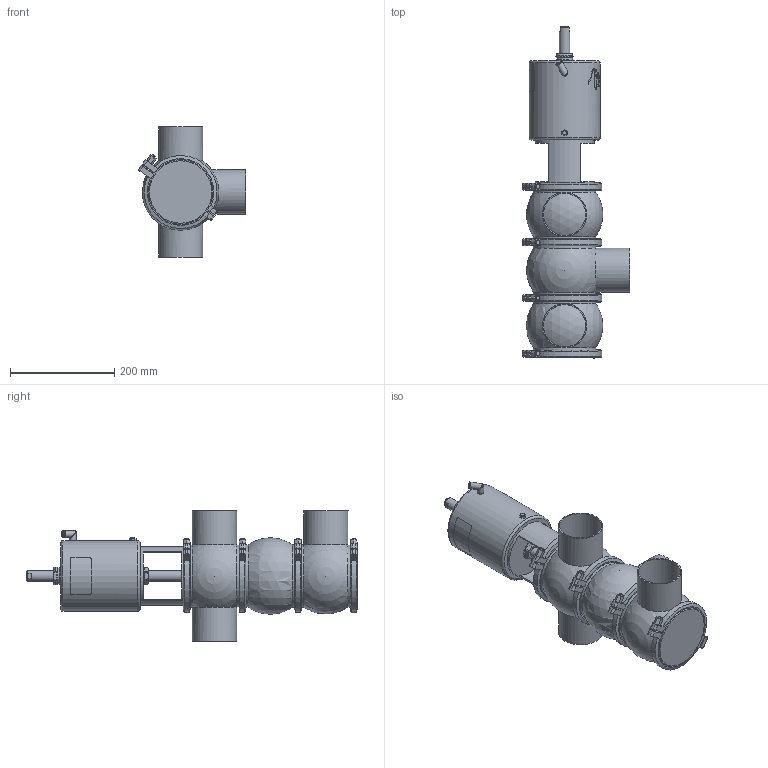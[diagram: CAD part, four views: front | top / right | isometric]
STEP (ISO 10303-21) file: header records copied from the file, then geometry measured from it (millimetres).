
FILE_DESCRIPTION (( 'STEP AP214' ), '1' );
FILE_NAME ('INNOVA L P W DIN 080 T3 AS NC_10.241.16.0016.STEP', '2024-08-07T07:40:50', ( '' ), ( '' ), 'SwSTEP 2.0', 'SolidWorks 2023', '' );
FILE_SCHEMA (( 'AUTOMOTIVE_DESIGN' ));
Length unit declared in the file: millimetre
Products named in the file (7): 10.240.15.0007_DIN 080; 10.240.15.0010_DN 080; 10.241.15.0001_DIN 080; 10.240.15.0014_T3 AS P180; 10.240.15.0006_DIN 080; 10.240.15.0001_DN 080; INNOVA L P W DIN 080 T3 AS NC_10.241.16.0016
Assembly tree (10 placements, depth 2):
  INNOVA L P W DIN 080 T3 AS NC_10.241.16.0016
    10.240.15.0007_DIN 080
    10.240.15.0006_DIN 080  x2
    10.240.15.0010_DN 080
    10.240.15.0014_T3 AS P180
    10.240.15.0001_DN 080  x4
    10.241.15.0001_DIN 080
Bounding box: 206.43 x 637.63 x 250 mm (x, y, z)
Volume: 7484135 mm3; surface area: 668208.2 mm2
Topology: 11 solids, 11 shells, 537 faces, 1433 edges, 933 vertices
Faces by surface type: plane 261, cylinder 138, bspline 80, cone 46, sphere 8, torus 4
Full cylindrical faces by diameter (mm): 6.15 x1, 8 x9, 8.5 x1, 10.5 x1, 12.5 x3, 16 x1, 20 x2, 31 x1, 34.5 x2, 36.5 x1, 81 x4, 85 x4, 113 x1, 120 x7, 132 x8, 136 x1
Entity records: 20856 total; most frequent: CARTESIAN_POINT 11366, ORIENTED_EDGE 1646, DIRECTION 1287, EDGE_CURVE 823, VERTEX_POINT 568, AXIS2_PLACEMENT_3D 499, EDGE_LOOP 427, FACE_OUTER_BOUND 385
